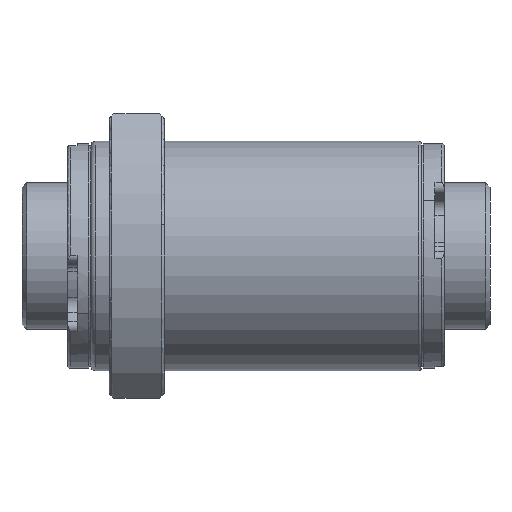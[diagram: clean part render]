
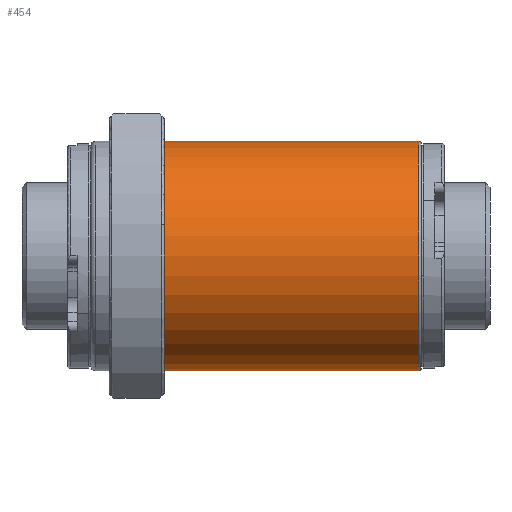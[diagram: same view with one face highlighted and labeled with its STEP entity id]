
A CAD part, front view. The second image highlights one B-rep face of the part: STEP entity #454.
In plain terms, the highlighted cylindrical face has radius 25 mm (diameter 50 mm), a partial arc.
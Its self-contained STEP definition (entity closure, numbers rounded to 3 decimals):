
#4 = CARTESIAN_POINT ( 'NONE',  ( 50., 0., 25. ) ) ;
#276 = EDGE_LOOP ( 'NONE', ( #6152, #2695, #4899, #3162 ) ) ;
#454 = ADVANCED_FACE ( 'NONE', ( #6379 ), #6204, .T. ) ;
#465 = CARTESIAN_POINT ( 'NONE',  ( 14., 0., -25. ) ) ;
#1599 = VERTEX_POINT ( 'NONE', #5706 ) ;
#1875 = CARTESIAN_POINT ( 'NONE',  ( 50., 0., -25. ) ) ;
#1990 = AXIS2_PLACEMENT_3D ( 'NONE', #3613, #4693, #3586 ) ;
#2051 = CARTESIAN_POINT ( 'NONE',  ( 69.5, 0., 0. ) ) ;
#2094 = CIRCLE ( 'NONE', #6450, 25. ) ;
#2236 = DIRECTION ( 'NONE',  ( 0., 0., 1. ) ) ;
#2695 = ORIENTED_EDGE ( 'NONE', *, *, #6842, .T. ) ;
#3093 = EDGE_CURVE ( 'NONE', #5907, #3903, #2094, .T. ) ;
#3162 = ORIENTED_EDGE ( 'NONE', *, *, #3093, .F. ) ;
#3221 = DIRECTION ( 'NONE',  ( -1., 0., 0. ) ) ;
#3586 = DIRECTION ( 'NONE',  ( 0., 0., 1. ) ) ;
#3613 = CARTESIAN_POINT ( 'NONE',  ( 50., 0., 0. ) ) ;
#3630 = VECTOR ( 'NONE', #6495, 1000. ) ;
#3903 = VERTEX_POINT ( 'NONE', #3913 ) ;
#3913 = CARTESIAN_POINT ( 'NONE',  ( 14., 0., 25. ) ) ;
#3939 = VERTEX_POINT ( 'NONE', #5221 ) ;
#4479 = DIRECTION ( 'NONE',  ( 0., 0., -1. ) ) ;
#4693 = DIRECTION ( 'NONE',  ( -1., 0., 0. ) ) ;
#4795 = LINE ( 'NONE', #4, #3630 ) ;
#4899 = ORIENTED_EDGE ( 'NONE', *, *, #6004, .T. ) ;
#4985 = LINE ( 'NONE', #1875, #5420 ) ;
#5048 = EDGE_CURVE ( 'NONE', #3939, #5907, #4985, .T. ) ;
#5221 = CARTESIAN_POINT ( 'NONE',  ( 69.5, 0., -25. ) ) ;
#5398 = CIRCLE ( 'NONE', #7269, 25. ) ;
#5420 = VECTOR ( 'NONE', #5898, 1000. ) ;
#5706 = CARTESIAN_POINT ( 'NONE',  ( 69.5, 0., 25. ) ) ;
#5898 = DIRECTION ( 'NONE',  ( -1., 0., 0. ) ) ;
#5907 = VERTEX_POINT ( 'NONE', #465 ) ;
#6004 = EDGE_CURVE ( 'NONE', #1599, #3903, #4795, .T. ) ;
#6152 = ORIENTED_EDGE ( 'NONE', *, *, #5048, .F. ) ;
#6204 = CYLINDRICAL_SURFACE ( 'NONE', #1990, 25. ) ;
#6229 = DIRECTION ( 'NONE',  ( -1., 0., 0. ) ) ;
#6379 = FACE_OUTER_BOUND ( 'NONE', #276, .T. ) ;
#6450 = AXIS2_PLACEMENT_3D ( 'NONE', #6872, #6229, #2236 ) ;
#6495 = DIRECTION ( 'NONE',  ( -1., 0., 0. ) ) ;
#6842 = EDGE_CURVE ( 'NONE', #3939, #1599, #5398, .T. ) ;
#6872 = CARTESIAN_POINT ( 'NONE',  ( 14., 0., 0. ) ) ;
#7269 = AXIS2_PLACEMENT_3D ( 'NONE', #2051, #3221, #4479 ) ;
